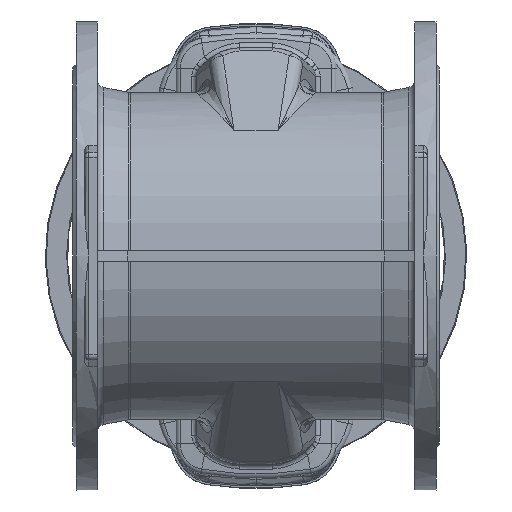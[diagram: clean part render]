
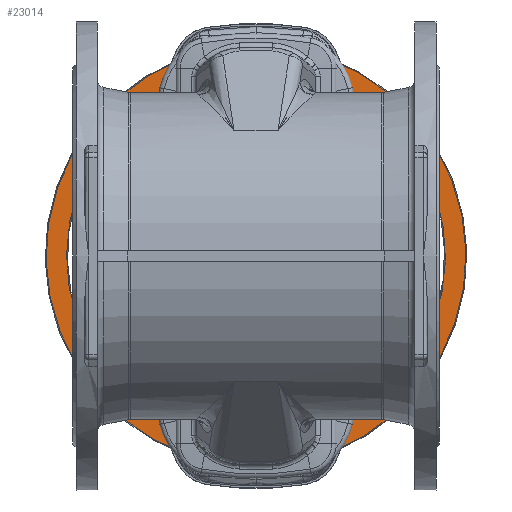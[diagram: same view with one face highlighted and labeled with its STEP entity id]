
A CAD part, front view. The second image highlights one B-rep face of the part: STEP entity #23014.
In plain terms, the highlighted planar face has unit normal (0, -1, 0).
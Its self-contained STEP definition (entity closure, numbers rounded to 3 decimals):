
#523 = AXIS2_PLACEMENT_3D ( 'NONE', #11392, #11403, #11405 ) ;
#2312 = CIRCLE ( 'NONE', #24497, 204.116 ) ;
#2315 = CIRCLE ( 'NONE', #24500, 184.221 ) ;
#4236 = EDGE_LOOP ( 'NONE', ( #4679 ) ) ;
#4240 = EDGE_LOOP ( 'NONE', ( #4678 ) ) ;
#4678 = ORIENTED_EDGE ( 'NONE', *, *, #30367, .F. ) ;
#4679 = ORIENTED_EDGE ( 'NONE', *, *, #30371, .F. ) ;
#11389 = PLANE ( 'NONE',  #523 ) ;
#11392 = CARTESIAN_POINT ( 'NONE',  ( 125.463, 966., 155.902 ) ) ;
#11403 = DIRECTION ( 'NONE',  ( 0., 1., 0. ) ) ;
#11405 = DIRECTION ( 'NONE',  ( -0.627, 0., -0.779 ) ) ;
#15267 = FACE_OUTER_BOUND ( 'NONE', #4240, .T. ) ;
#15277 = FACE_BOUND ( 'NONE', #4236, .T. ) ;
#23014 = ADVANCED_FACE ( 'NONE', ( #15267, #15277 ), #11389, .F. ) ;
#24497 = AXIS2_PLACEMENT_3D ( 'NONE', #26042, #26043, #26044 ) ;
#24500 = AXIS2_PLACEMENT_3D ( 'NONE', #26053, #26054, #26055 ) ;
#26042 = CARTESIAN_POINT ( 'NONE',  ( 0., 966., 0. ) ) ;
#26043 = DIRECTION ( 'NONE',  ( 0., 1., 0. ) ) ;
#26044 = DIRECTION ( 'NONE',  ( -0.627, 0., -0.779 ) ) ;
#26053 = CARTESIAN_POINT ( 'NONE',  ( 0., 966., 0. ) ) ;
#26054 = DIRECTION ( 'NONE',  ( 0., -1., 0. ) ) ;
#26055 = DIRECTION ( 'NONE',  ( 0., 0., 1. ) ) ;
#30367 = EDGE_CURVE ( 'NONE', #41700, #41700, #2312, .T. ) ;
#30371 = EDGE_CURVE ( 'NONE', #41703, #41703, #2315, .T. ) ;
#41700 = VERTEX_POINT ( 'NONE', #42279 ) ;
#41703 = VERTEX_POINT ( 'NONE', #42282 ) ;
#42279 = CARTESIAN_POINT ( 'NONE',  ( -127.971, 966., -159.018 ) ) ;
#42282 = CARTESIAN_POINT ( 'NONE',  ( 0., 966., 184.221 ) ) ;
